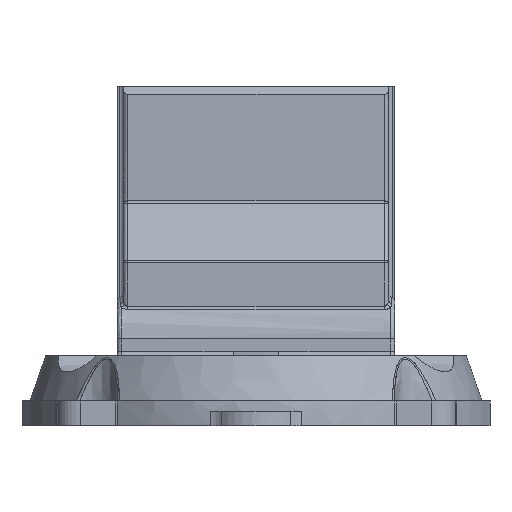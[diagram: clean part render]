
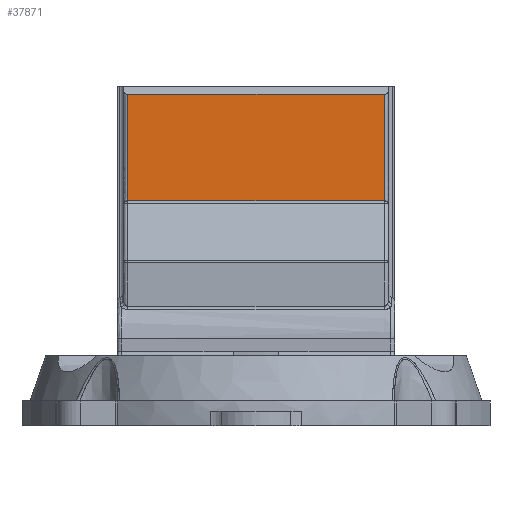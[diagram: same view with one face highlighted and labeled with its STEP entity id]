
A CAD part, front view. The second image highlights one B-rep face of the part: STEP entity #37871.
In plain terms, the highlighted free-form (B-spline) face has degree [1, 1] with [2, 2] control points.
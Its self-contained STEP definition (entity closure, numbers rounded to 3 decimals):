
#37871 = ADVANCED_FACE('',(#37872),#37886,.T.);
#37872 = FACE_BOUND('',#37873,.T.);
#37873 = EDGE_LOOP('',(#37874,#37896,#37911,#37926));
#37874 = ORIENTED_EDGE('',*,*,#37875,.T.);
#37875 = EDGE_CURVE('',#37876,#37878,#37880,.T.);
#37876 = VERTEX_POINT('',#37877);
#37877 = CARTESIAN_POINT('',(-62.,44.,-148.));
#37878 = VERTEX_POINT('',#37879);
#37879 = CARTESIAN_POINT('',(62.,44.,-148.));
#37880 = SURFACE_CURVE('',#37881,(#37885),.PCURVE_S1.);
#37881 = LINE('',#37882,#37883);
#37882 = CARTESIAN_POINT('',(-62.,44.,-148.));
#37883 = VECTOR('',#37884,1.);
#37884 = DIRECTION('',(1.,0.,0.));
#37885 = PCURVE('',#37886,#37891);
#37886 = B_SPLINE_SURFACE_WITH_KNOTS('',1,1,(
    (#37887,#37888)
    ,(#37889,#37890
  )),.UNSPECIFIED.,.F.,.F.,.F.,(2,2),(2,2),(0.,1.),(0.,1.),
  .PIECEWISE_BEZIER_KNOTS.);
#37887 = CARTESIAN_POINT('',(-62.,44.,-96.631));
#37888 = CARTESIAN_POINT('',(62.,44.,-96.631));
#37889 = CARTESIAN_POINT('',(-62.,44.,-148.));
#37890 = CARTESIAN_POINT('',(62.,44.,-148.));
#37891 = DEFINITIONAL_REPRESENTATION('',(#37892),#37895);
#37892 = B_SPLINE_CURVE_WITH_KNOTS('',1,(#37893,#37894),.UNSPECIFIED.,
  .F.,.F.,(2,2),(0.,124.),.PIECEWISE_BEZIER_KNOTS.);
#37893 = CARTESIAN_POINT('',(1.,0.));
#37894 = CARTESIAN_POINT('',(1.,1.));
#37895 = ( GEOMETRIC_REPRESENTATION_CONTEXT(2) 
PARAMETRIC_REPRESENTATION_CONTEXT() REPRESENTATION_CONTEXT('2D SPACE',''
  ) );
#37896 = ORIENTED_EDGE('',*,*,#37897,.T.);
#37897 = EDGE_CURVE('',#37878,#37898,#37900,.T.);
#37898 = VERTEX_POINT('',#37899);
#37899 = CARTESIAN_POINT('',(62.,44.,-96.631));
#37900 = SURFACE_CURVE('',#37901,(#37905),.PCURVE_S1.);
#37901 = LINE('',#37902,#37903);
#37902 = CARTESIAN_POINT('',(62.,44.,-148.));
#37903 = VECTOR('',#37904,1.);
#37904 = DIRECTION('',(0.,0.,1.));
#37905 = PCURVE('',#37886,#37906);
#37906 = DEFINITIONAL_REPRESENTATION('',(#37907),#37910);
#37907 = B_SPLINE_CURVE_WITH_KNOTS('',1,(#37908,#37909),.UNSPECIFIED.,
  .F.,.F.,(2,2),(0.,51.369),.PIECEWISE_BEZIER_KNOTS.);
#37908 = CARTESIAN_POINT('',(1.,1.));
#37909 = CARTESIAN_POINT('',(0.,1.));
#37910 = ( GEOMETRIC_REPRESENTATION_CONTEXT(2) 
PARAMETRIC_REPRESENTATION_CONTEXT() REPRESENTATION_CONTEXT('2D SPACE',''
  ) );
#37911 = ORIENTED_EDGE('',*,*,#37912,.T.);
#37912 = EDGE_CURVE('',#37898,#37913,#37915,.T.);
#37913 = VERTEX_POINT('',#37914);
#37914 = CARTESIAN_POINT('',(-62.,44.,-96.631));
#37915 = SURFACE_CURVE('',#37916,(#37920),.PCURVE_S1.);
#37916 = LINE('',#37917,#37918);
#37917 = CARTESIAN_POINT('',(62.,44.,-96.631));
#37918 = VECTOR('',#37919,1.);
#37919 = DIRECTION('',(-1.,0.,0.));
#37920 = PCURVE('',#37886,#37921);
#37921 = DEFINITIONAL_REPRESENTATION('',(#37922),#37925);
#37922 = B_SPLINE_CURVE_WITH_KNOTS('',1,(#37923,#37924),.UNSPECIFIED.,
  .F.,.F.,(2,2),(0.,124.),.PIECEWISE_BEZIER_KNOTS.);
#37923 = CARTESIAN_POINT('',(0.,1.));
#37924 = CARTESIAN_POINT('',(0.,0.));
#37925 = ( GEOMETRIC_REPRESENTATION_CONTEXT(2) 
PARAMETRIC_REPRESENTATION_CONTEXT() REPRESENTATION_CONTEXT('2D SPACE',''
  ) );
#37926 = ORIENTED_EDGE('',*,*,#37927,.T.);
#37927 = EDGE_CURVE('',#37913,#37876,#37928,.T.);
#37928 = SURFACE_CURVE('',#37929,(#37933),.PCURVE_S1.);
#37929 = LINE('',#37930,#37931);
#37930 = CARTESIAN_POINT('',(-62.,44.,-96.631));
#37931 = VECTOR('',#37932,1.);
#37932 = DIRECTION('',(0.,0.,-1.));
#37933 = PCURVE('',#37886,#37934);
#37934 = DEFINITIONAL_REPRESENTATION('',(#37935),#37938);
#37935 = B_SPLINE_CURVE_WITH_KNOTS('',1,(#37936,#37937),.UNSPECIFIED.,
  .F.,.F.,(2,2),(0.,51.369),.PIECEWISE_BEZIER_KNOTS.);
#37936 = CARTESIAN_POINT('',(0.,0.));
#37937 = CARTESIAN_POINT('',(1.,0.));
#37938 = ( GEOMETRIC_REPRESENTATION_CONTEXT(2) 
PARAMETRIC_REPRESENTATION_CONTEXT() REPRESENTATION_CONTEXT('2D SPACE',''
  ) );
